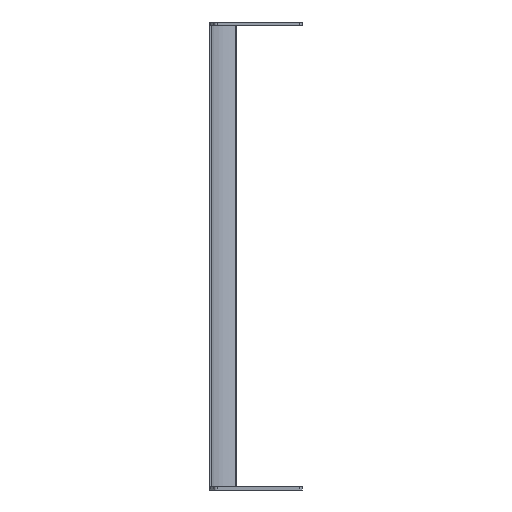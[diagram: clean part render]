
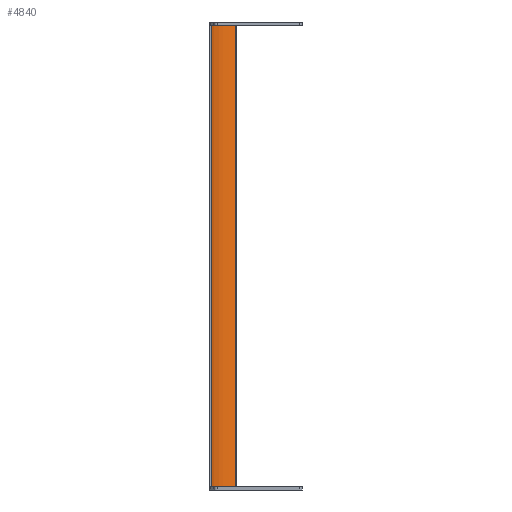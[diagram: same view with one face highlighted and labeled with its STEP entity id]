
A CAD part, left-side view. The second image highlights one B-rep face of the part: STEP entity #4840.
In plain terms, the highlighted cylindrical face has radius 40.64 mm (diameter 81.28 mm), a partial arc.
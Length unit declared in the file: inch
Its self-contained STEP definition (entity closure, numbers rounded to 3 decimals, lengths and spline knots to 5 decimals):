
#4483=CARTESIAN_POINT('',(-1.52,1.63,-9.118));
#4484=DIRECTION('',(0.,0.,1.));
#4485=DIRECTION('',(0.325,-0.946,0.));
#4486=AXIS2_PLACEMENT_3D('',#4483,#4484,#4485);
#4535=DIRECTION('',(0.,0.,1.));
#4536=VECTOR('',#4535,18.236);
#4537=CARTESIAN_POINT('',(-0.05742,0.98126,-9.118));
#4538=LINE('',#4537,#4536);
#4579=CARTESIAN_POINT('',(-1.52,1.63,9.118));
#4580=DIRECTION('',(0.,0.,-1.));
#4581=DIRECTION('',(0.914,-0.405,0.));
#4582=AXIS2_PLACEMENT_3D('',#4579,#4580,#4581);
#4608=DIRECTION('',(0.,0.,1.));
#4609=VECTOR('',#4608,18.236);
#4610=CARTESIAN_POINT('',(-1.00032,0.11675,-9.118));
#4611=LINE('',#4610,#4609);
#4624=CARTESIAN_POINT('',(-1.00032,0.11675,-9.118));
#4625=CARTESIAN_POINT('',(-0.05742,0.98126,-9.118));
#4626=VERTEX_POINT('',#4624);
#4627=VERTEX_POINT('',#4625);
#4632=CARTESIAN_POINT('',(-1.00032,0.11675,9.118));
#4634=VERTEX_POINT('',#4632);
#4660=CARTESIAN_POINT('',(-0.05742,0.98126,9.118));
#4661=VERTEX_POINT('',#4660);
#4829=CARTESIAN_POINT('',(-1.52,1.63,9.118));
#4830=DIRECTION('',(0.,0.,-1.));
#4831=DIRECTION('',(-1.,0.,0.));
#4832=AXIS2_PLACEMENT_3D('',#4829,#4830,#4831);
#4833=CYLINDRICAL_SURFACE('',#4832,1.6);
#4834=ORIENTED_EDGE('',*,*,#4691,.T.);
#4835=ORIENTED_EDGE('',*,*,#4727,.T.);
#4836=ORIENTED_EDGE('',*,*,#4800,.T.);
#4837=ORIENTED_EDGE('',*,*,#4823,.F.);
#4838=EDGE_LOOP('',(#4834,#4835,#4836,#4837));
#4839=FACE_OUTER_BOUND('',#4838,.F.);
#4487=CIRCLE('',#4486,1.6);
#4583=CIRCLE('',#4582,1.6);
#4691=EDGE_CURVE('',#4626,#4627,#4487,.T.);
#4727=EDGE_CURVE('',#4627,#4661,#4538,.T.);
#4800=EDGE_CURVE('',#4661,#4634,#4583,.T.);
#4823=EDGE_CURVE('',#4626,#4634,#4611,.T.);
#4840=ADVANCED_FACE('',(#4839),#4833,.F.);
